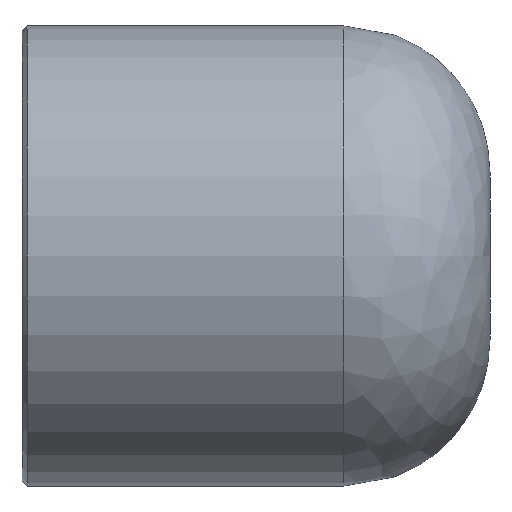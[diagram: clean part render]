
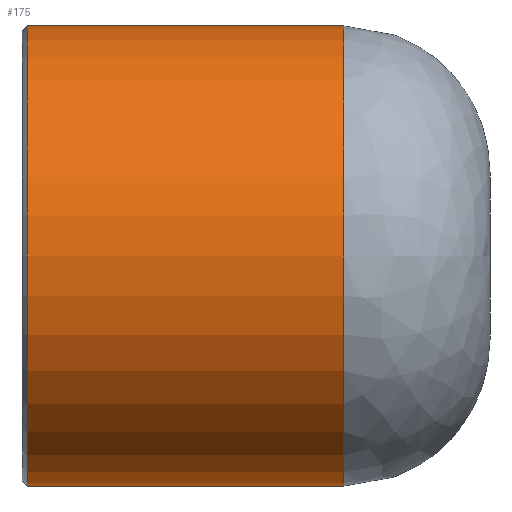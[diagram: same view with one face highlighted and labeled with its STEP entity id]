
A CAD part, front view. The second image highlights one B-rep face of the part: STEP entity #175.
In plain terms, the highlighted cylindrical face has radius 9.047 mm (diameter 18.095 mm), a full revolution.
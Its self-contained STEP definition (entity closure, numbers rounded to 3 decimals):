
#144=CARTESIAN_POINT('',(0.2,9.048,0.));
#145=VERTEX_POINT('',#144);
#146=CARTESIAN_POINT('',(0.2,0.0,0.0));
#147=DIRECTION('',(-1.0,0.0,0.0));
#148=DIRECTION('',(0.0,-1.0,0.0));
#149=AXIS2_PLACEMENT_3D('',#146,#147,#148);
#150=CIRCLE('',#149,9.048);
#151=EDGE_CURVE('',#145,#145,#150,.T.);
#156=CARTESIAN_POINT('',(6.325,0.0,0.0));
#157=DIRECTION('',(1.0,0.0,0.0));
#158=DIRECTION('',(0.0,1.0,0.0));
#159=AXIS2_PLACEMENT_3D('',#156,#157,#158);
#160=CYLINDRICAL_SURFACE('',#159,9.048);
#161=CARTESIAN_POINT('',(12.65,9.048,0.0));
#162=VERTEX_POINT('',#161);
#163=CARTESIAN_POINT('',(12.65,0.0,0.0));
#164=DIRECTION('',(1.0,0.0,0.0));
#165=DIRECTION('',(0.0,1.0,0.0));
#166=AXIS2_PLACEMENT_3D('',#163,#164,#165);
#167=CIRCLE('',#166,9.048);
#168=EDGE_CURVE('',#162,#162,#167,.T.);
#169=ORIENTED_EDGE('',*,*,#168,.F.);
#170=EDGE_LOOP('',(#169));
#171=FACE_OUTER_BOUND('',#170,.T.);
#172=ORIENTED_EDGE('',*,*,#151,.F.);
#173=EDGE_LOOP('',(#172));
#174=FACE_BOUND('',#173,.T.);
#175=ADVANCED_FACE('',(#171,#174),#160,.T.);
